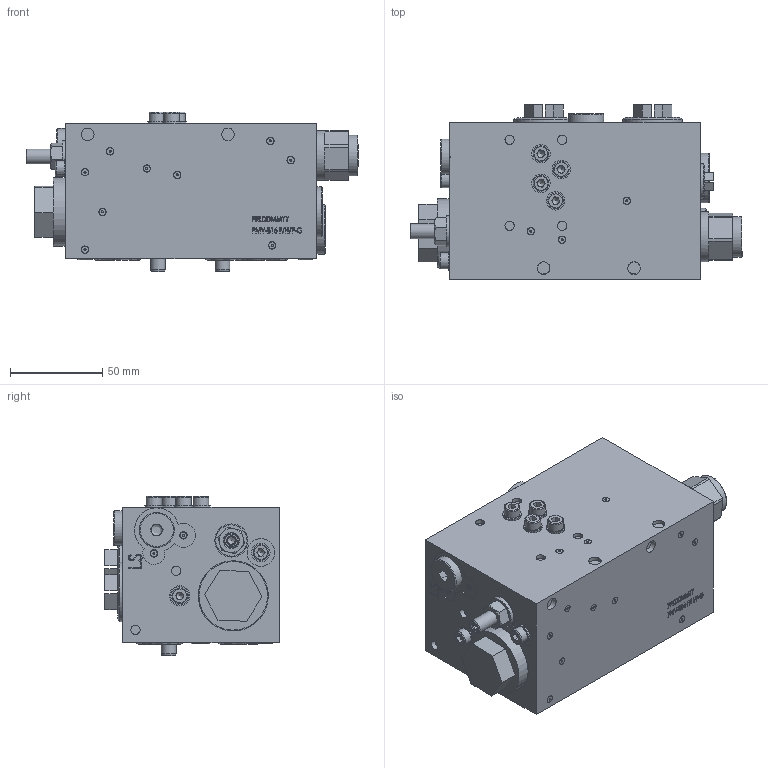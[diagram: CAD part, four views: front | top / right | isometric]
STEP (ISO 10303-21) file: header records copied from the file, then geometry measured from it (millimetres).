
FILE_DESCRIPTION (( 'STEP AP214' ), '1' );
FILE_NAME ('0301570.STEP', '2022-06-22T12:39:41', ( '' ), ( '' ), 'SwSTEP 2.0', 'SolidWorks 2020', '' );
FILE_SCHEMA (( 'AUTOMOTIVE_DESIGN' ));
Length unit declared in the file: millimetre
Products named in the file (21): 0074697_246.2308; 0287651_003; 0072022_238.5408; 0283782_001; 0079915_005; 0073842_153.2402; 0072022_238.5405; 0280258_001; 0072022_238.3402; 0290158_007; 0287187_001; 0301570; 0072126_221.5561; 0288965_003; 0289301_002; 0072022_238.2406; 0073837_049.2050; 0290158_001; 0290158_005; 0166400_001; 0296651_003
Assembly tree (54 placements, depth 3):
  0301570
    0296651_003
    0287651_003
    0287187_001
    0073842_153.2402
    0280258_001  x2
    0289301_002
      0288965_003
      0072022_238.3402
    0072022_238.5408
    0072022_238.5405
    0072022_238.2406  x2
    0074697_246.2308  x6
    0073837_049.2050  x6
    0079915_005
    0290158_001  x6
    0290158_007  x2
    0290158_005
    0283782_001  x16
    0072126_221.5561  x2
    0166400_001
Bounding box: 179.98 x 94.7 x 86.5 mm (x, y, z)
Volume: 921168.8 mm3; surface area: 106838.9 mm2
Topology: 80 solids, 80 shells, 1778 faces, 3742 edges, 2347 vertices
Faces by surface type: plane 900, cone 402, cylinder 306, bspline 149, torus 21
Full cylindrical faces by diameter (mm): 0.6 x17, 1.1 x16, 2.4 x1, 3.5 x16, 3.7 x1, 3.767 x16, 4 x23, 4.1 x1, 4.2 x5, 4.47 x6, 5 x13, 5.7 x6, 6 x1, 6.8 x11, 7 x1, 7.8 x6, 7.85 x12, 8 x5, 8.03 x6, 8.5 x6, 10 x6, 10.95 x1, 11.3 x2, 11.445 x3, 11.6 x2, 13.16 x1, 13.2 x2, 14.5 x1, 14.6 x1, 15 x1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
Entity records: 35834 total; most frequent: CARTESIAN_POINT 12017, DIRECTION 4215, ORIENTED_EDGE 4136, EDGE_CURVE 2068, VERTEX_POINT 1481, AXIS2_PLACEMENT_3D 1446, EDGE_LOOP 1441, VECTOR 1323
